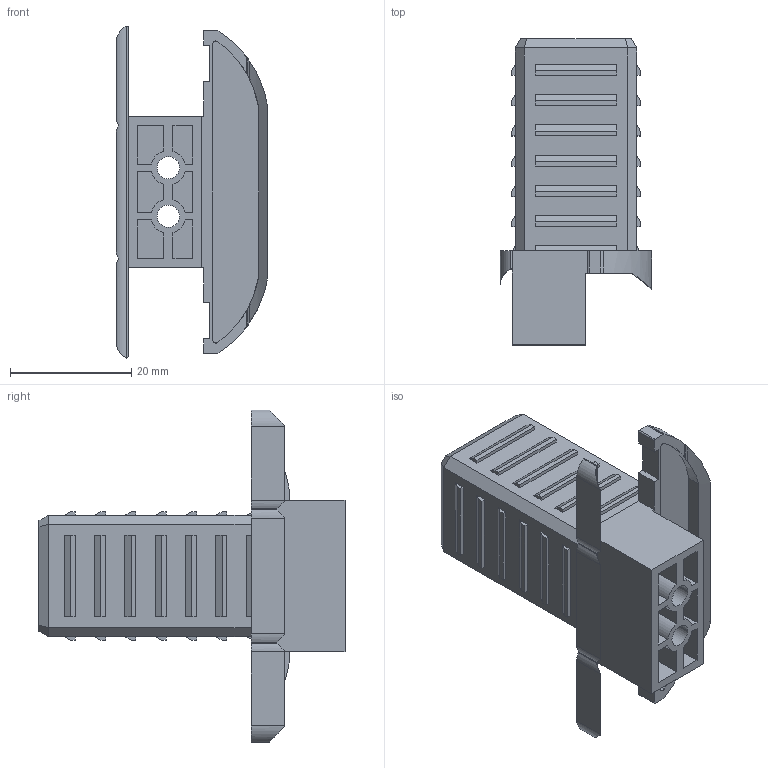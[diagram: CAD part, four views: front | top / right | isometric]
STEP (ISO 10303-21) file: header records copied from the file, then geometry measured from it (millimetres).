
FILE_DESCRIPTION (( 'STEP AP203' ), '1' );
FILE_NAME ('013.025.111.STEP', '2020-09-21T06:55:42', ( '' ), ( '' ), 'SwSTEP 2.0', 'SolidWorks 2018', '' );
FILE_SCHEMA (( 'CONFIG_CONTROL_DESIGN' ));
Length unit declared in the file: millimetre
Products named in the file (1): 013.025.111
Bounding box: 25 x 50.5 x 54.79 mm (x, y, z)
Volume: 11348.1 mm3; surface area: 11340.9 mm2
Topology: 1 solids, 1 shells, 316 faces, 832 edges, 551 vertices
Faces by surface type: plane 251, cylinder 61, bspline 4
Entity records: 9798 total; most frequent: CARTESIAN_POINT 1848, ORIENTED_EDGE 1664, DIRECTION 1541, EDGE_CURVE 832, LINE 697, VECTOR 697, VERTEX_POINT 551, AXIS2_PLACEMENT_3D 422
